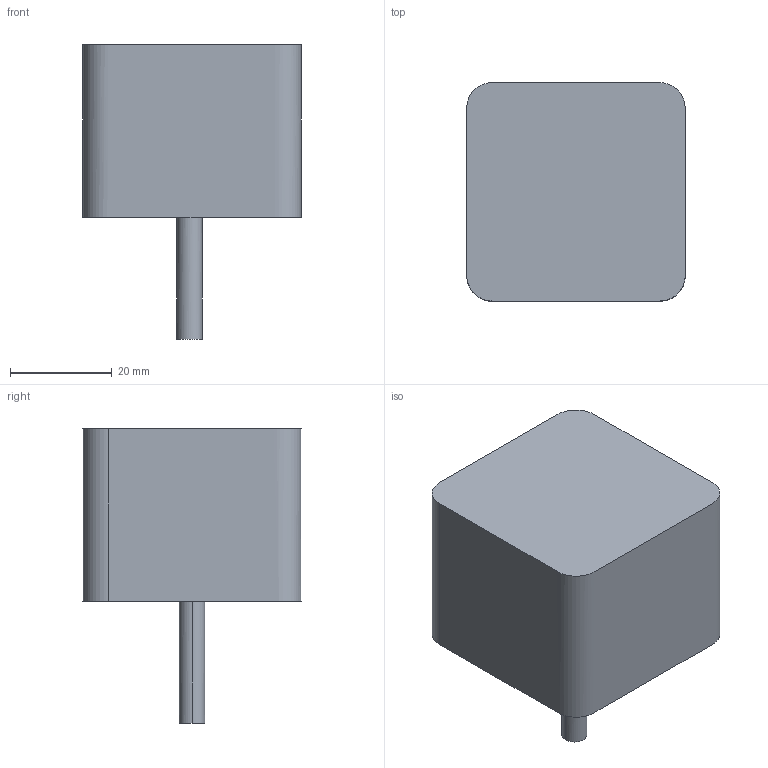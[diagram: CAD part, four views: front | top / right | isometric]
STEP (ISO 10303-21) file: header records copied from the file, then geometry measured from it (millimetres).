
FILE_DESCRIPTION(/* description */ (''),/* implementation_level */ '2;1');
FILE_NAME(/* name */ '8.x-drive#8.3#la-stpx',/* time_stamp */ '2014-12-01T20:18:10+01:00',/* author */ (''),/* organization */ (''),/* preprocessor_version */ 'ST-DEVELOPER v14',/* originating_system */ '',/* authorisation */ '');
FILE_SCHEMA (('AUTOMOTIVE_DESIGN'));
Length unit declared in the file: millimetre
Products named in the file (1): Document
Bounding box: 43 x 43 x 58 mm (x, y, z)
Volume: 62527 mm3; surface area: 9568 mm2
Topology: 1 solids, 1 shells, 7 faces, 12 edges, 8 vertices
Faces by surface type: bspline 4, plane 3
Entity records: 459 total; most frequent: CARTESIAN_POINT 269, ORIENTED_EDGE 24, PCURVE 24, DEFINITIONAL_REPRESENTATION 24, B_SPLINE_CURVE_WITH_KNOTS 20, SURFACE_CURVE 12, EDGE_CURVE 12, EDGE_LOOP 8
